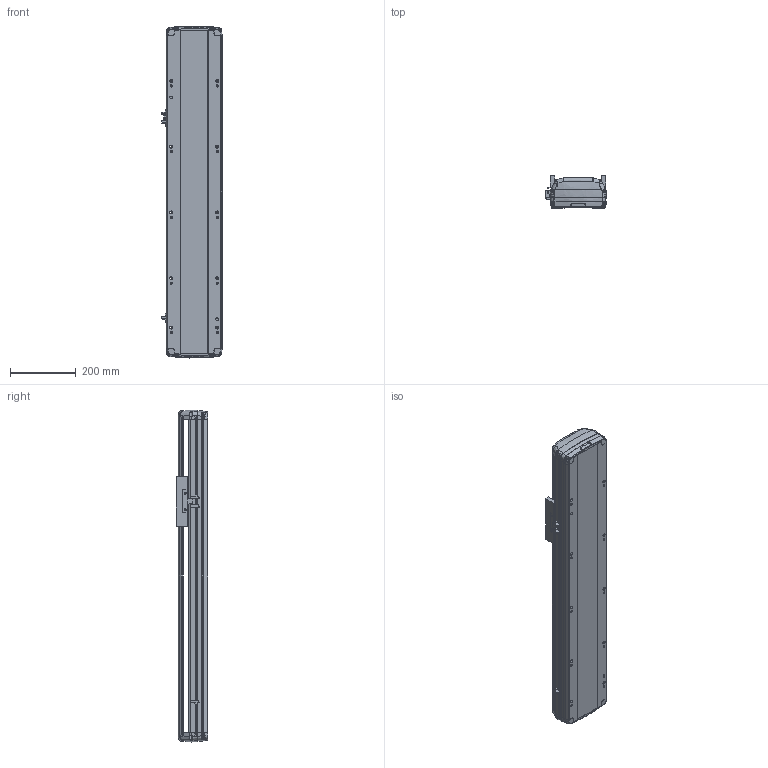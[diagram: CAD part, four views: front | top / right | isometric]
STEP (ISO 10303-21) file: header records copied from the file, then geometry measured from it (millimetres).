
FILE_DESCRIPTION (( 'STEP AP214' ), '1' );
FILE_NAME ('RTH17-XX-600-B-M40-C4.STEP', '2025-10-24T08:35:38', ( '' ), ( '' ), 'SwSTEP 2.0', 'SolidWorks 2018', '' );
FILE_SCHEMA (( 'AUTOMOTIVE_DESIGN' ));
Length unit declared in the file: millimetre
Products named in the file (7): RTH17-XX-600-B-M40-C4; N_RTH-L-012 感应片(外置)^RTH17-XX-XX-B-M40-C4（方程式）; N_RTH17-E-004丝杆螺母连接座^RTH17-XX-XX-B-M40-C4（方程式）; N_OMRON EE-SX672 換覜ん^RTH17-XX-XX-B-M40-C4ㄗ源最宒ㄘ; N_RTH17-M-007上盖^RTH17-XX-XX-B-M40-C4（方程式）; N_RTH17-M-011底座^RTH17-XX-XX-B-M40-C4（方程式）; N_RTH17-GY-001P^RTH17-XX-XX-B-M40-C4（方程式）
Assembly tree (9 placements, depth 2):
  RTH17-XX-600-B-M40-C4
    N_RTH17-M-011底座^RTH17-XX-XX-B-M40-C4（方程式）
    N_RTH17-M-007上盖^RTH17-XX-XX-B-M40-C4（方程式）
    N_OMRON EE-SX672 換覜ん^RTH17-XX-XX-B-M40-C4ㄗ源最宒ㄘ  x3
    N_RTH-L-012 感应片(外置)^RTH17-XX-XX-B-M40-C4（方程式）
    N_RTH17-E-004丝杆螺母连接座^RTH17-XX-XX-B-M40-C4（方程式）
    N_RTH17-GY-001P^RTH17-XX-XX-B-M40-C4（方程式）  x2
Bounding box: 183.5 x 97 x 1009.88 mm (x, y, z)
Volume: 7489718.5 mm3; surface area: 1057969.2 mm2
Topology: 7 solids, 11 shells, 1720 faces, 4826 edges, 3134 vertices
Faces by surface type: plane 809, cylinder 445, bspline 420, cone 28, torus 18
Entity records: 40278 total; most frequent: CARTESIAN_POINT 16789, ORIENTED_EDGE 5156, DIRECTION 4066, EDGE_CURVE 2582, VERTEX_POINT 1688, LINE 1418, VECTOR 1418, AXIS2_PLACEMENT_3D 1324
